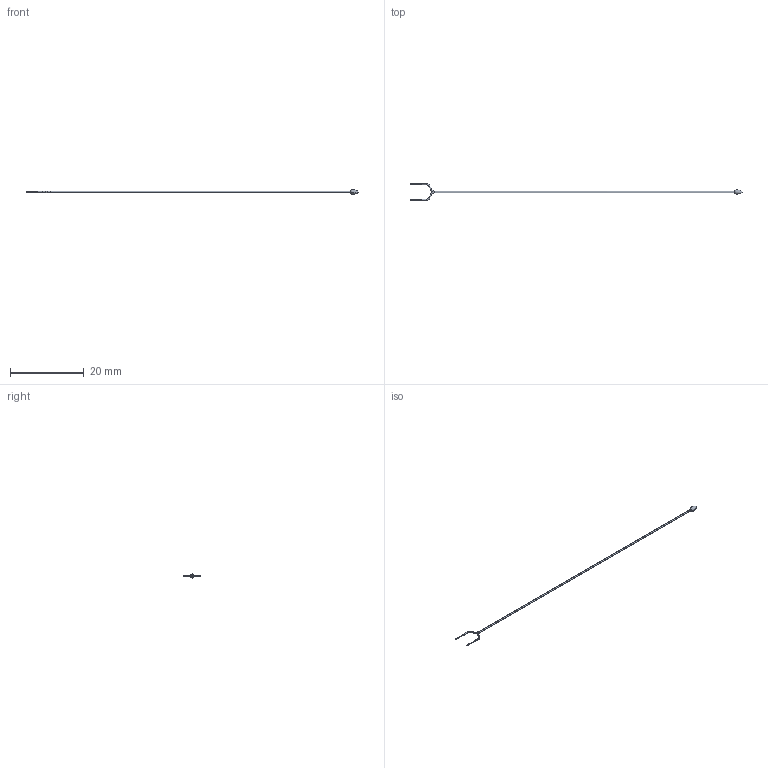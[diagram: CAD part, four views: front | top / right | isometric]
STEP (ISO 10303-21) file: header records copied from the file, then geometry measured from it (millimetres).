
FILE_DESCRIPTION (( 'STEP AP203' ), '1' );
FILE_NAME ('Thermistor NXFT15XH103FA2B090.STEP', '2022-10-19T08:58:31', ( '' ), ( '' ), 'SwSTEP 2.0', 'SolidWorks 2020', '' );
FILE_SCHEMA (( 'CONFIG_CONTROL_DESIGN' ));
Length unit declared in the file: millimetre
Products named in the file (1): Thermistor NXFT15XH103FA2B090
Bounding box: 90 x 4.54 x 1.2 mm (x, y, z)
Volume: 13.3 mm3; surface area: 141.2 mm2
Topology: 1 solids, 1 shells, 30 faces, 62 edges, 35 vertices
Faces by surface type: cylinder 15, torus 8, plane 5, bspline 2
Entity records: 920 total; most frequent: CARTESIAN_POINT 200, DIRECTION 155, ORIENTED_EDGE 120, AXIS2_PLACEMENT_3D 70, EDGE_CURVE 60, CIRCLE 41, VERTEX_POINT 35, EDGE_LOOP 33
